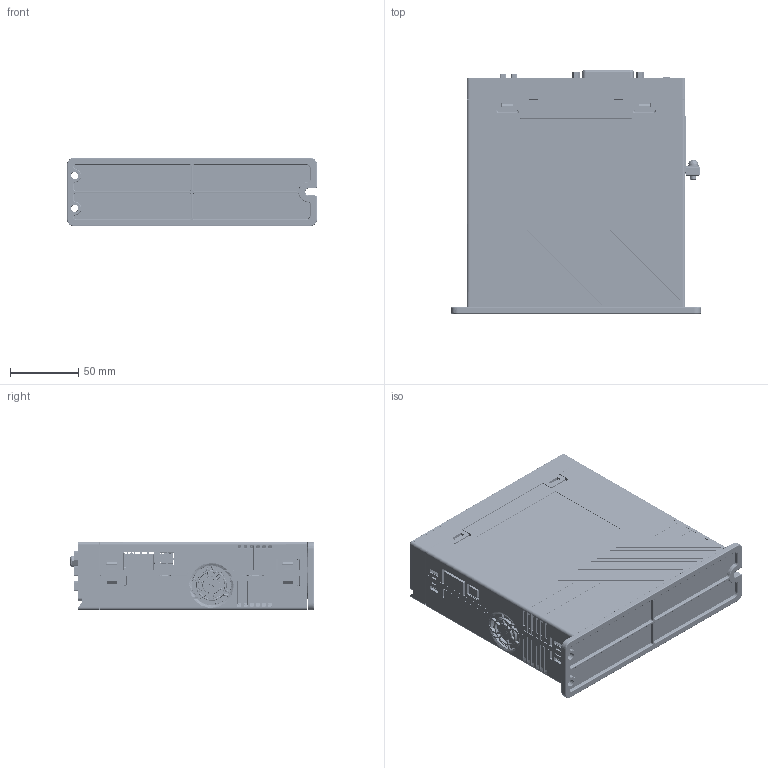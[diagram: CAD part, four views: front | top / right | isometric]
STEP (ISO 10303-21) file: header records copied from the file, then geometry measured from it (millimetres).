
FILE_DESCRIPTION((''),'2;1');
FILE_NAME('DS3P-08AS','2026-01-21T18:40:16',('wuyh130'),(''),'CREO PARAMETRIC BY PTC INC, 2021063','CREO PARAMETRIC BY PTC INC, 2021063','');
FILE_SCHEMA(('AUTOMOTIVE_DESIGN { 1 0 10303 214 1 1 1 1 }'));
Products named in the file (1): DS3P-08AS
Bounding box: 183 x 178.45 x 50 mm (x, y, z)
Surface area: 301403.6 mm2 (no closed solid volume)
Topology: 0 solids, 224 shells, 7395 faces, 25439 edges, 17720 vertices
Faces by surface type: plane 4136, cylinder 2021, bspline 453, cone 427, torus 197, extrusion 84, sphere 73, revolution 4
Entity records: 341508 total; most frequent: CARTESIAN_POINT 106698, ORIENTED_EDGE 42576, DIRECTION 39564, EDGE_CURVE 25362, VERTEX_POINT 17720, VECTOR 17595, LINE 17511, AXIS2_PLACEMENT_3D 10981
